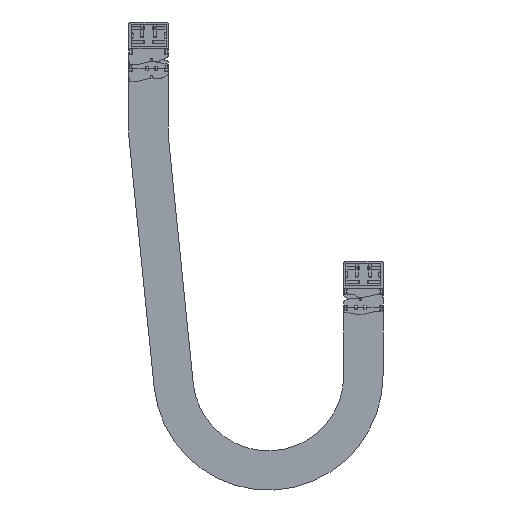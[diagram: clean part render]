
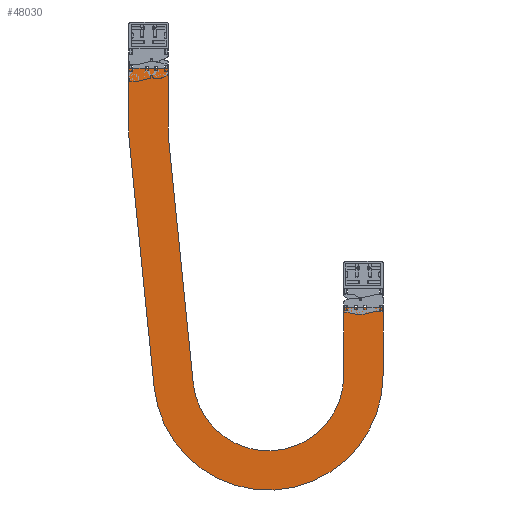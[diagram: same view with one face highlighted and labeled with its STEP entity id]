
A CAD part, left-side view. The second image highlights one B-rep face of the part: STEP entity #48030.
In plain terms, the highlighted planar face has unit normal (-1, 0, 0).
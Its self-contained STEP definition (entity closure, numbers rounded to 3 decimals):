
#46640=DIRECTION('',(0.,1.,0.));
#46641=VECTOR('',#46640,64.);
#46642=CARTESIAN_POINT('',(-35.,350.,0.));
#46643=LINE('',#46642,#46641);
#46853=DIRECTION('',(0.,-1.,0.));
#46854=VECTOR('',#46853,64.);
#46855=CARTESIAN_POINT('',(-35.,64.,-390.));
#46856=LINE('',#46855,#46854);
#47140=DIRECTION('',(0.,0.,-1.));
#47141=VECTOR('',#47140,111.857);
#47142=CARTESIAN_POINT('',(-35.,414.,0.));
#47143=LINE('',#47142,#47141);
#47147=DIRECTION('',(0.,0.,-1.));
#47148=VECTOR('',#47147,108.645);
#47149=CARTESIAN_POINT('',(-35.,350.,0.));
#47150=LINE('',#47149,#47148);
#47154=DIRECTION('',(0.,-0.1,-0.995));
#47155=VECTOR('',#47154,405.708);
#47156=CARTESIAN_POINT('',(-35.,350.,-108.645));
#47157=LINE('',#47156,#47155);
#47161=CARTESIAN_POINT('',(-35.,187.,-500.));
#47162=DIRECTION('',(-1.,0.,0.));
#47163=DIRECTION('',(0.,0.995,-0.1));
#47164=AXIS2_PLACEMENT_3D('',#47161,#47162,#47163);
#47169=DIRECTION('',(0.,0.,1.));
#47170=VECTOR('',#47169,110.);
#47171=CARTESIAN_POINT('',(-35.,64.,-500.));
#47172=LINE('',#47171,#47170);
#47183=DIRECTION('',(0.,0.,1.));
#47184=VECTOR('',#47183,110.);
#47185=CARTESIAN_POINT('',(-35.,0.,-500.));
#47186=LINE('',#47185,#47184);
#47197=CARTESIAN_POINT('',(-35.,187.,-500.));
#47198=DIRECTION('',(-1.,0.,0.));
#47199=DIRECTION('',(0.,0.995,-0.1));
#47200=AXIS2_PLACEMENT_3D('',#47197,#47198,#47199);
#47212=DIRECTION('',(0.,-0.1,-0.995));
#47213=VECTOR('',#47212,408.919);
#47214=CARTESIAN_POINT('',(-35.,414.,-111.857));
#47215=LINE('',#47214,#47213);
#47236=CARTESIAN_POINT('',(-35.,350.,0.));
#47238=VERTEX_POINT('',#47236);
#47239=CARTESIAN_POINT('',(-35.,414.,0.));
#47240=VERTEX_POINT('',#47239);
#47260=CARTESIAN_POINT('',(-35.,350.,-108.645));
#47262=VERTEX_POINT('',#47260);
#47263=CARTESIAN_POINT('',(-35.,414.,-111.857));
#47265=VERTEX_POINT('',#47263);
#47284=CARTESIAN_POINT('',(-35.,309.382,-512.314));
#47286=VERTEX_POINT('',#47284);
#47287=CARTESIAN_POINT('',(-35.,373.06,-518.722));
#47289=VERTEX_POINT('',#47287);
#47308=CARTESIAN_POINT('',(-35.,64.,-500.));
#47310=VERTEX_POINT('',#47308);
#47311=CARTESIAN_POINT('',(-35.,0.,-500.));
#47313=VERTEX_POINT('',#47311);
#47332=CARTESIAN_POINT('',(-35.,64.,-390.));
#47334=VERTEX_POINT('',#47332);
#47335=CARTESIAN_POINT('',(-35.,0.,-390.));
#47336=VERTEX_POINT('',#47335);
#48010=CARTESIAN_POINT('',(-35.,350.,0.));
#48011=DIRECTION('',(-1.,0.,0.));
#48012=DIRECTION('',(0.,1.,0.));
#48013=AXIS2_PLACEMENT_3D('',#48010,#48011,#48012);
#48014=PLANE('',#48013);
#48015=ORIENTED_EDGE('',*,*,#47346,.F.);
#48016=ORIENTED_EDGE('',*,*,#47948,.T.);
#48017=ORIENTED_EDGE('',*,*,#47927,.T.);
#48018=ORIENTED_EDGE('',*,*,#47905,.T.);
#48019=ORIENTED_EDGE('',*,*,#47883,.T.);
#48020=ORIENTED_EDGE('',*,*,#47561,.T.);
#48022=ORIENTED_EDGE('',*,*,#48021,.F.);
#48024=ORIENTED_EDGE('',*,*,#48023,.F.);
#48026=ORIENTED_EDGE('',*,*,#48025,.F.);
#48027=ORIENTED_EDGE('',*,*,#47995,.F.);
#48028=EDGE_LOOP('',(#48015,#48016,#48017,#48018,#48019,#48020,#48022,#48024,
#48026,#48027));
#48029=FACE_OUTER_BOUND('',#48028,.F.);
#47165=CIRCLE('',#47164,123.);
#47201=CIRCLE('',#47200,187.);
#47346=EDGE_CURVE('',#47238,#47240,#46643,.T.);
#47561=EDGE_CURVE('',#47334,#47336,#46856,.T.);
#47883=EDGE_CURVE('',#47310,#47334,#47172,.T.);
#47905=EDGE_CURVE('',#47286,#47310,#47165,.T.);
#47927=EDGE_CURVE('',#47262,#47286,#47157,.T.);
#47948=EDGE_CURVE('',#47238,#47262,#47150,.T.);
#47995=EDGE_CURVE('',#47240,#47265,#47143,.T.);
#48021=EDGE_CURVE('',#47313,#47336,#47186,.T.);
#48023=EDGE_CURVE('',#47289,#47313,#47201,.T.);
#48025=EDGE_CURVE('',#47265,#47289,#47215,.T.);
#48030=ADVANCED_FACE('',(#48029),#48014,.T.);
